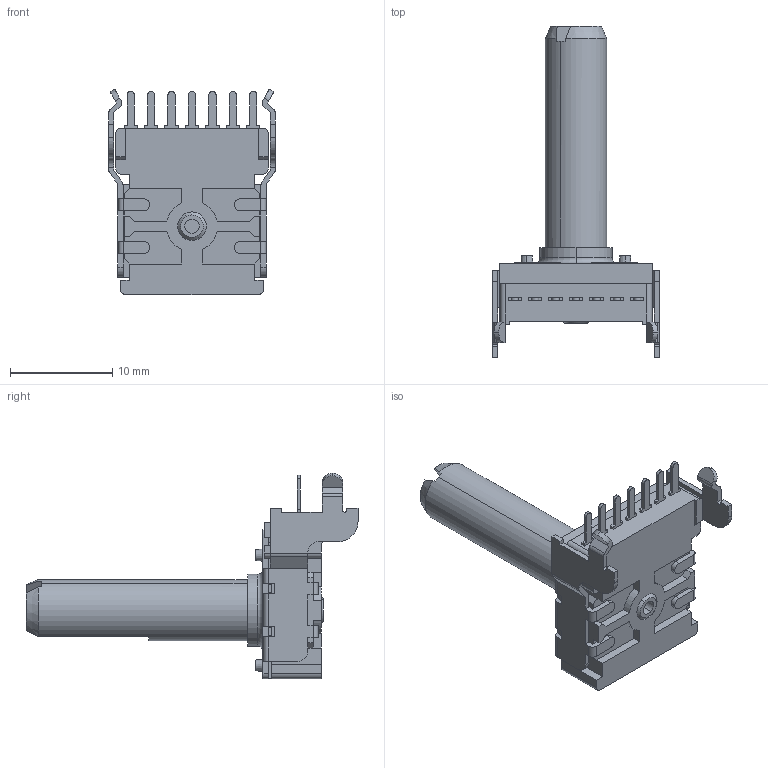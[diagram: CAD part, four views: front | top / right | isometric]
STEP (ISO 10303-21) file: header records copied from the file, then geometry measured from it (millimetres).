
FILE_DESCRIPTION (( 'STEP AP203' ), '1' );
FILE_NAME ('P140KV-F30.STEP', '2026-09-15T14:57:53', ( '' ), ( '' ), 'SwSTEP 2.0', 'SolidWorks 2026', '' );
FILE_SCHEMA (( 'CONFIG_CONTROL_DESIGN' ));
Length unit declared in the file: millimetre
Products named in the file (7): spring_plate; F30; KV bracket; H-terminal; Housing; P140KV-F30; KV_housing
Assembly tree (12 placements, depth 3):
  P140KV-F30
    KV_housing
      Housing
      H-terminal  x7
    F30
    spring_plate
    KV bracket
Bounding box: 16.3 x 32.5 x 20.1 mm (x, y, z)
Volume: 1574.5 mm3; surface area: 2827.2 mm2
Topology: 11 solids, 11 shells, 522 faces, 1435 edges, 936 vertices
Faces by surface type: plane 360, cylinder 140, cone 8, bspline 8, torus 6
Entity records: 15800 total; most frequent: CARTESIAN_POINT 2797, ORIENTED_EDGE 2582, DIRECTION 2473, EDGE_CURVE 1291, LINE 961, VECTOR 961, VERTEX_POINT 840, AXIS2_PLACEMENT_3D 756
